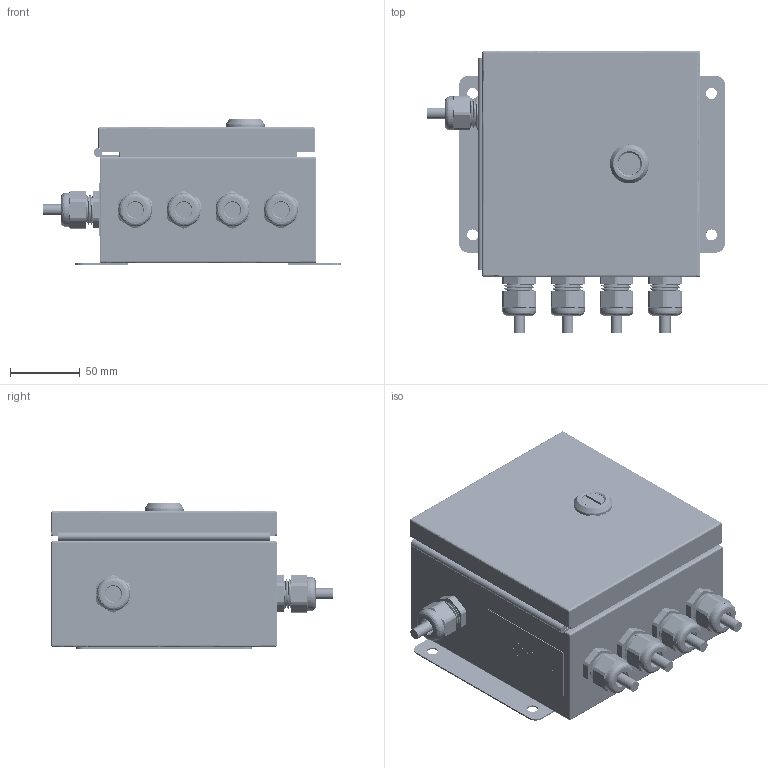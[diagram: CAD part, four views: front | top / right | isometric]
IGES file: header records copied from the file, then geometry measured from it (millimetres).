
Start section: SolidWorks IGES file using analytic representation for surfaces
Global section: file name: C:\0_Work\SolidWorks\HI 6020 Series\HI6020IT-SS1.IGS; native system: SolidWorks 2020; preprocessor: SolidWorks 2020; author: vach01; date: 230928.133952; units: inch
Bounding box: 213.8 x 203.09 x 104.41 mm (x, y, z)
Surface area: 467073.1 mm2 (no closed solid volume)
Topology: 0 solids, 0 shells, 17449 faces, 152879 edges, 152761 vertices
Faces by surface type: bspline 14290, revolution 3159
